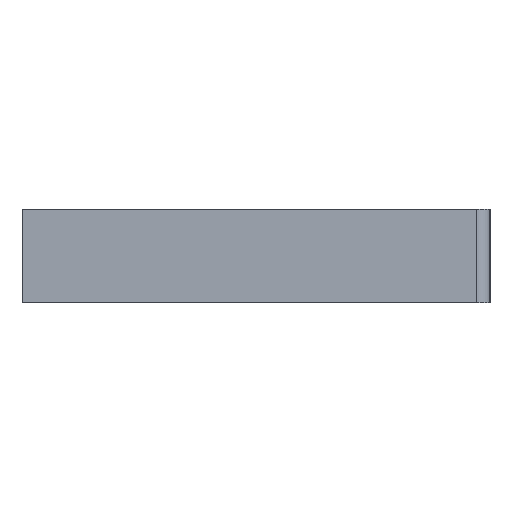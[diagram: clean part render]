
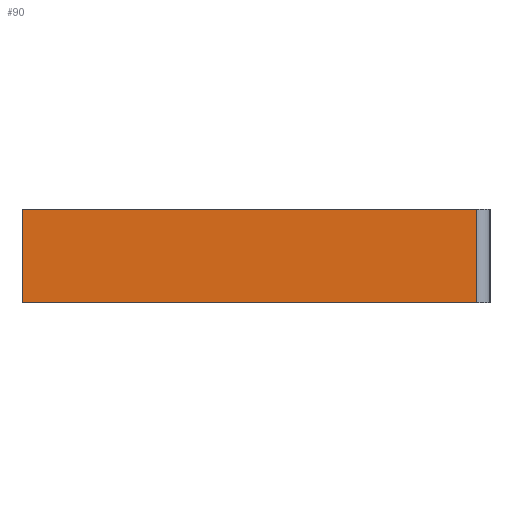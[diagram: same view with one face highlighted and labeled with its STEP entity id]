
A CAD part, left-side view. The second image highlights one B-rep face of the part: STEP entity #90.
In plain terms, the highlighted planar face has unit normal (-1, 0, 0).
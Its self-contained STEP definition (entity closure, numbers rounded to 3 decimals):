
#90 = ADVANCED_FACE( '', ( #126 ), #127, .T. );
#126 = FACE_OUTER_BOUND( '', #166, .T. );
#127 = PLANE( '', #167 );
#166 = EDGE_LOOP( '', ( #279, #280, #281, #282 ) );
#167 = AXIS2_PLACEMENT_3D( '', #283, #284, #285 );
#279 = ORIENTED_EDGE( '', *, *, #352, .T. );
#280 = ORIENTED_EDGE( '', *, *, #339, .F. );
#281 = ORIENTED_EDGE( '', *, *, #353, .F. );
#282 = ORIENTED_EDGE( '', *, *, #350, .T. );
#283 = CARTESIAN_POINT( '', ( -6., 0., 3.5 ) );
#284 = DIRECTION( '', ( -1., 0., 0. ) );
#285 = DIRECTION( '', ( 0., 1., 0. ) );
#339 = EDGE_CURVE( '', #399, #394, #401, .T. );
#350 = EDGE_CURVE( '', #419, #417, #420, .T. );
#352 = EDGE_CURVE( '', #417, #394, #422, .T. );
#353 = EDGE_CURVE( '', #419, #399, #423, .T. );
#394 = VERTEX_POINT( '', #476 );
#399 = VERTEX_POINT( '', #482 );
#401 = LINE( '', #484, #485 );
#417 = VERTEX_POINT( '', #508 );
#419 = VERTEX_POINT( '', #511 );
#420 = LINE( '', #512, #513 );
#422 = LINE( '', #516, #517 );
#423 = LINE( '', #518, #519 );
#476 = CARTESIAN_POINT( '', ( -6., -34., -3.5 ) );
#482 = CARTESIAN_POINT( '', ( -6., -34., 3.5 ) );
#484 = CARTESIAN_POINT( '', ( -6., -34., 3.5 ) );
#485 = VECTOR( '', #575, 1. );
#508 = CARTESIAN_POINT( '', ( -6., 0., -3.5 ) );
#511 = CARTESIAN_POINT( '', ( -6., 0., 3.5 ) );
#512 = CARTESIAN_POINT( '', ( -6., 0., 3.5 ) );
#513 = VECTOR( '', #590, 1. );
#516 = CARTESIAN_POINT( '', ( -6., 0., -3.5 ) );
#517 = VECTOR( '', #592, 1. );
#518 = CARTESIAN_POINT( '', ( -6., 0., 3.5 ) );
#519 = VECTOR( '', #593, 1. );
#575 = DIRECTION( '', ( 0., 0., -1. ) );
#590 = DIRECTION( '', ( 0., 0., -1. ) );
#592 = DIRECTION( '', ( 0., -1., 0. ) );
#593 = DIRECTION( '', ( 0., -1., 0. ) );
